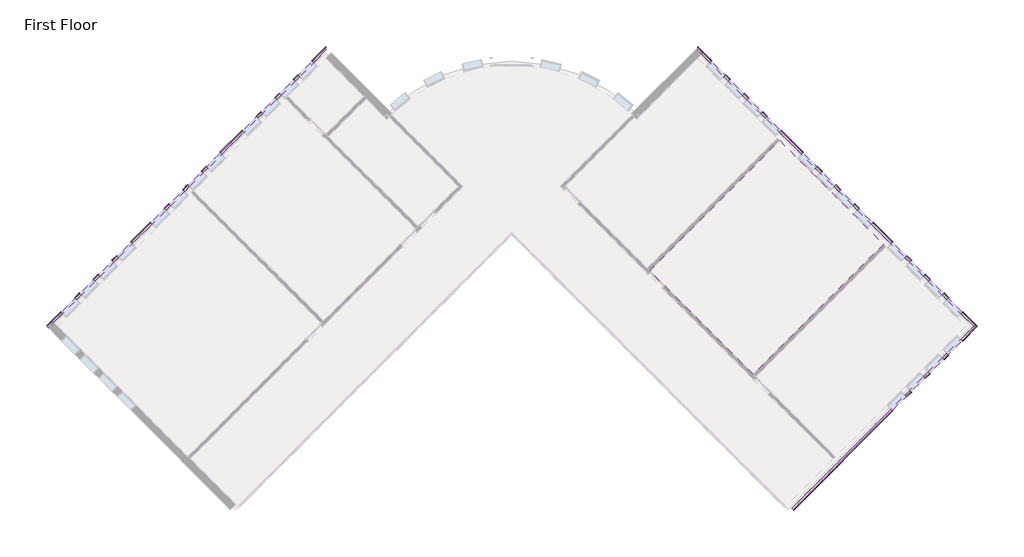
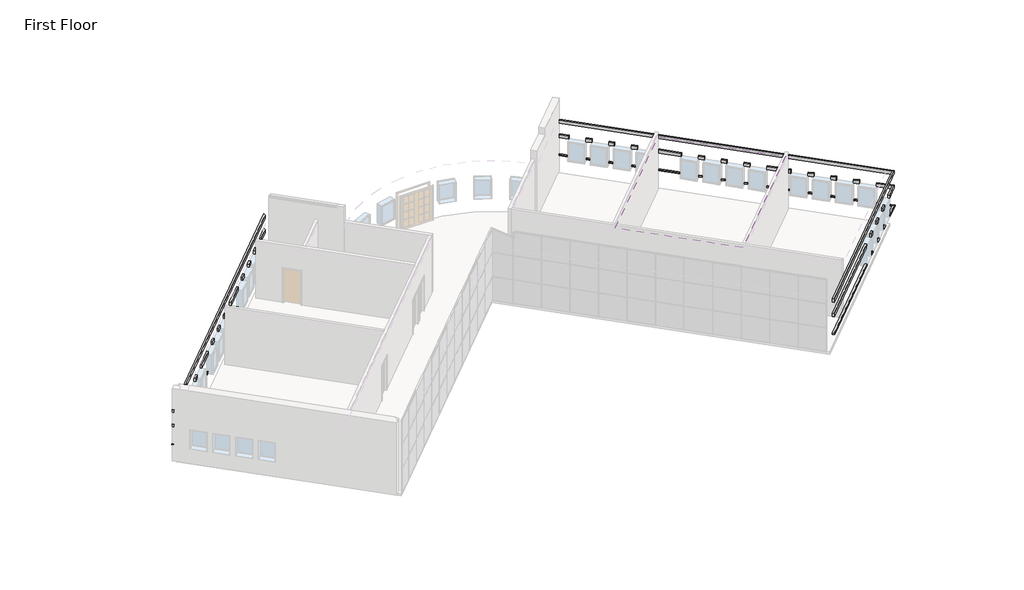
# One storey, part 5 of 5: 9 proxies, 1 covering.
"""IFC4 building model written with IfcOpenShell, lengths in millimetres."""

from ifc_helpers import new_model, si_unit, frame, origin, place, context, project, spatial, polyline, outline, extrude, faceted_brep, element, save

model = new_model("IFC4")

# Units and contexts
model_context = context("Model", 3, world=origin())
ifc_project = project(units=[si_unit("LENGTHUNIT", "METRE", prefix="MILLI")], contexts=[model_context])

# Site, building, storey
site = spatial("IfcSite", under=ifc_project)
building = spatial("IfcBuilding", under=site)
storey = spatial("IfcBuildingStorey", under=building, Name="First Floor", Elevation=0.0)

# Proxies
placement = place(None, origin())
element("IfcBuildingElementProxy", 1, Name="Wall Sweeps", at=placement, inside=storey, context=model_context, shape_type="Brep", body=[
    faceted_brep([(5753.0175119, 11443.3655905, 1085.85), (5753.0175119, 11573.5793042, 1085.85), (5753.0175119, 11622.9707129, 1041.4), (5753.0175119, 11622.9707129, 1016.0), (5753.0175119, 11443.3655905, 1016.0), (6317.415551, 10878.9675514, 1085.85), (6317.415551, 10878.9675514, 1016.0), (6382.5224079, 10944.0744083, 1016.0), (6407.2181122, 10968.7701126, 1016.0), (6407.2181122, 10968.7701126, 1041.4), (6382.5224079, 10944.0744083, 1085.85), (5937.1127624, 11259.27034, 1085.85), (5937.1127624, 11259.27034, 1016.0)], [[[0, 1, 2, 3, 4]], [[5, 6, 7, 8, 9, 10]], [[1, 0, 11, 5, 10]], [[2, 1, 10, 9]], [[3, 2, 9, 8]], [[4, 3, 8, 7, 6, 12]], [[0, 4, 12, 6, 5, 11]]]),
    faceted_brep([(6963.9939917, 10232.3891107, 1085.85), (7029.1008486, 10297.4959676, 1085.85), (7053.7965529, 10322.1916719, 1041.4), (7053.7965529, 10322.1916719, 1016.0), (7029.1008486, 10297.4959676, 1016.0), (6963.9939917, 10232.3891107, 1016.0), (7179.5201386, 10016.8629638, 1085.85), (7179.5201386, 10016.8629638, 1016.0), (7244.6269955, 10081.9698207, 1016.0), (7269.3226998, 10106.665525, 1016.0), (7269.3226998, 10106.665525, 1041.4), (7244.6269955, 10081.9698207, 1085.85)], [[[0, 1, 2, 3, 4, 5]], [[6, 7, 8, 9, 10, 11]], [[1, 0, 6, 11]], [[2, 1, 11, 10]], [[3, 2, 10, 9]], [[5, 4, 3, 9, 8, 7]], [[0, 5, 7, 6]]]),
    faceted_brep([(7826.0985793, 9370.2845231, 1085.85), (7891.2054362, 9435.39138, 1085.85), (7915.9011405, 9460.0870843, 1041.4), (7915.9011405, 9460.0870843, 1016.0), (7891.2054362, 9435.39138, 1016.0), (7826.0985793, 9370.2845231, 1016.0), (8041.6247262, 9154.7583762, 1085.85), (8041.6247262, 9154.7583762, 1016.0), (8106.7315831, 9219.8652331, 1016.0), (8131.4272874, 9244.5609374, 1016.0), (8131.4272874, 9244.5609374, 1041.4), (8106.7315831, 9219.8652331, 1085.85)], [[[0, 1, 2, 3, 4, 5]], [[6, 7, 8, 9, 10, 11]], [[1, 0, 6, 11]], [[2, 1, 11, 10]], [[3, 2, 10, 9]], [[5, 4, 3, 9, 8, 7]], [[0, 5, 7, 6]]]),
    faceted_brep([(8688.2031669, 8508.1799355, 1085.85), (8753.3100238, 8573.2867923, 1085.85), (8778.0057282, 8597.9824967, 1041.4), (8778.0057282, 8597.9824967, 1016.0), (8753.3100238, 8573.2867923, 1016.0), (8688.2031669, 8508.1799355, 1016.0), (8903.7293139, 8292.6537886, 1085.85), (8903.7293139, 8292.6537886, 1016.0), (8968.8361707, 8357.7606454, 1016.0), (8993.5318751, 8382.4563498, 1016.0), (8993.5318751, 8382.4563498, 1041.4), (8968.8361707, 8357.7606454, 1085.85)], [[[0, 1, 2, 3, 4, 5]], [[6, 7, 8, 9, 10, 11]], [[1, 0, 6, 11]], [[2, 1, 11, 10]], [[3, 2, 10, 9]], [[5, 4, 3, 9, 8, 7]], [[0, 5, 7, 6]]]),
    faceted_brep([(9550.3077546, 7646.0753478, 1085.85), (9615.4146114, 7711.1822047, 1085.85), (9640.1103158, 7735.877909, 1041.4), (9640.1103158, 7735.877909, 1016.0), (9615.4146114, 7711.1822047, 1016.0), (9550.3077546, 7646.0753478, 1016.0), (10574.7639411, 6621.6191613, 1085.85), (10574.7639411, 6621.6191613, 1016.0), (10639.870798, 6686.7260182, 1016.0), (10664.5665023, 6711.4217225, 1016.0), (10664.5665023, 6711.4217225, 1041.4), (10639.870798, 6686.7260182, 1085.85)], [[[0, 1, 2, 3, 4, 5]], [[6, 7, 8, 9, 10, 11]], [[1, 0, 6, 11]], [[2, 1, 11, 10]], [[3, 2, 10, 9]], [[5, 4, 3, 9, 8, 7]], [[0, 5, 7, 6]]]),
    faceted_brep([(11221.3423818, 5975.0407206, 1085.85), (11286.4492387, 6040.1475775, 1085.85), (11311.144943, 6064.8432818, 1041.4), (11311.144943, 6064.8432818, 1016.0), (11286.4492387, 6040.1475775, 1016.0), (11221.3423818, 5975.0407206, 1016.0), (11436.8685287, 5759.5145737, 1085.85), (11436.8685287, 5759.5145737, 1016.0), (11501.9753856, 5824.6214306, 1016.0), (11526.6710899, 5849.3171349, 1016.0), (11526.6710899, 5849.3171349, 1041.4), (11501.9753856, 5824.6214306, 1085.85)], [[[0, 1, 2, 3, 4, 5]], [[6, 7, 8, 9, 10, 11]], [[1, 0, 6, 11]], [[2, 1, 11, 10]], [[3, 2, 10, 9]], [[5, 4, 3, 9, 8, 7]], [[0, 5, 7, 6]]]),
    faceted_brep([(12083.4469694, 5112.936133, 1085.85), (12148.5538263, 5178.0429899, 1085.85), (12173.2495306, 5202.7386942, 1041.4), (12173.2495306, 5202.7386942, 1016.0), (12148.5538263, 5178.0429899, 1016.0), (12083.4469694, 5112.936133, 1016.0), (12298.9731163, 4897.4099861, 1085.85), (12298.9731163, 4897.4099861, 1016.0), (12364.0799732, 4962.516843, 1016.0), (12388.7756775, 4987.2125473, 1016.0), (12388.7756775, 4987.2125473, 1041.4), (12364.0799732, 4962.516843, 1085.85)], [[[0, 1, 2, 3, 4, 5]], [[6, 7, 8, 9, 10, 11]], [[1, 0, 6, 11]], [[2, 1, 11, 10]], [[3, 2, 10, 9]], [[5, 4, 3, 9, 8, 7]], [[0, 5, 7, 6]]]),
    faceted_brep([(12945.551557, 4250.8315454, 1085.85), (13010.6584139, 4315.9384023, 1085.85), (13035.3541182, 4340.6341066, 1041.4), (13035.3541182, 4340.6341066, 1016.0), (13010.6584139, 4315.9384023, 1016.0), (12945.551557, 4250.8315454, 1016.0), (13161.0777039, 4035.3053985, 1085.85), (13161.0777039, 4035.3053985, 1016.0), (13226.1845608, 4100.4122553, 1016.0), (13250.8802652, 4125.1079597, 1016.0), (13250.8802652, 4125.1079597, 1041.4), (13226.1845608, 4100.4122553, 1085.85)], [[[0, 1, 2, 3, 4, 5]], [[6, 7, 8, 9, 10, 11]], [[1, 0, 6, 11]], [[2, 1, 11, 10]], [[3, 2, 10, 9]], [[5, 4, 3, 9, 8, 7]], [[0, 5, 7, 6]]]),
    faceted_brep([(13807.6561447, 3388.7269578, 1085.85), (13872.7630015, 3453.8338146, 1085.85), (13897.4587059, 3478.529519, 1041.4), (13897.4587059, 3478.529519, 1016.0), (13872.7630015, 3453.8338146, 1016.0), (13807.6561447, 3388.7269578, 1016.0), (14723.1708449, 2473.2122576, 1085.85), (14723.1708449, 2473.2122576, 1016.0), (14788.2777017, 2538.3191144, 1016.0), (14812.9734061, 2563.0148188, 1016.0), (14812.9734061, 2563.0148188, 1041.4), (14788.2777017, 2538.3191144, 1085.85)], [[[0, 1, 2, 3, 4, 5]], [[6, 7, 8, 9, 10, 11]], [[1, 0, 6, 11]], [[2, 1, 11, 10]], [[3, 2, 10, 9]], [[5, 4, 3, 9, 8, 7]], [[0, 5, 7, 6]]]),
    faceted_brep([(15369.7492856, 1826.6338168, 1085.85), (15434.8561424, 1891.7406737, 1085.85), (15459.5518468, 1916.4363781, 1041.4), (15459.5518468, 1916.4363781, 1016.0), (15434.8561424, 1891.7406737, 1016.0), (15369.7492856, 1826.6338168, 1016.0), (15585.2754325, 1611.1076699, 1085.85), (15585.2754325, 1611.1076699, 1016.0), (15650.3822894, 1676.2145268, 1016.0), (15675.0779937, 1700.9102311, 1016.0), (15675.0779937, 1700.9102311, 1041.4), (15650.3822894, 1676.2145268, 1085.85)], [[[0, 1, 2, 3, 4, 5]], [[6, 7, 8, 9, 10, 11]], [[1, 0, 6, 11]], [[2, 1, 11, 10]], [[3, 2, 10, 9]], [[5, 4, 3, 9, 8, 7]], [[0, 5, 7, 6]]]),
    faceted_brep([(16231.8538732, 964.5292292, 1085.85), (16296.9607301, 1029.6360861, 1085.85), (16321.6564344, 1054.3317904, 1041.4), (16321.6564344, 1054.3317904, 1016.0), (16296.9607301, 1029.6360861, 1016.0), (16231.8538732, 964.5292292, 1016.0), (16447.3800201, 749.0030823, 1085.85), (16447.3800201, 749.0030823, 1016.0), (16512.486877, 814.1099392, 1016.0), (16537.1825813, 838.8056435, 1016.0), (16537.1825813, 838.8056435, 1041.4), (16512.486877, 814.1099392, 1085.85)], [[[0, 1, 2, 3, 4, 5]], [[6, 7, 8, 9, 10, 11]], [[1, 0, 6, 11]], [[2, 1, 11, 10]], [[3, 2, 10, 9]], [[5, 4, 3, 9, 8, 7]], [[0, 5, 7, 6]]]),
    faceted_brep([(17093.9584608, 102.4246416, 1085.85), (17159.0653177, 167.5314985, 1085.85), (17183.761022, 192.2272028, 1041.4), (17183.761022, 192.2272028, 1016.0), (17159.0653177, 167.5314985, 1016.0), (17093.9584608, 102.4246416, 1016.0), (17309.4846077, -113.1015053, 1085.85), (17309.4846077, -113.1015053, 1016.0), (17374.5914646, -47.9946484, 1016.0), (17399.2871689, -23.2989441, 1016.0), (17399.2871689, -23.2989441, 1041.4), (17374.5914646, -47.9946484, 1085.85)], [[[0, 1, 2, 3, 4, 5]], [[6, 7, 8, 9, 10, 11]], [[1, 0, 6, 11]], [[2, 1, 11, 10]], [[3, 2, 10, 9]], [[5, 4, 3, 9, 8, 7]], [[0, 5, 7, 6]]]),
    faceted_brep([(17956.0630484, -759.679946, 1085.85), (18021.1699053, -694.5730891, 1085.85), (18045.8656096, -669.8773848, 1041.4), (18045.8656096, -669.8773848, 1016.0), (18021.1699053, -694.5730891, 1016.0), (17956.0630484, -759.679946, 1016.0), (18554.3726125, -1357.9895101, 1085.85), (18554.3726125, -1357.9895101, 1016.0), (18733.9777349, -1357.9895101, 1016.0), (18733.9777349, -1357.9895101, 1041.4), (18684.5863263, -1357.9895101, 1085.85)], [[[0, 1, 2, 3, 4, 5]], [[6, 7, 8, 9, 10]], [[1, 0, 6, 10]], [[2, 1, 10, 9]], [[3, 2, 9, 8]], [[5, 4, 3, 8, 7]], [[0, 5, 7, 6]]]),
])
element("IfcBuildingElementProxy", 2, Name="Wall Sweeps", at=placement, inside=storey, context=model_context, shape_type="Brep", body=[
    faceted_brep([(5753.0175119, 11573.5793042, 2336.8), (5753.0175119, 11573.5793042, 2133.6), (5753.0175119, 11443.3655905, 2133.6), (5753.0175119, 11443.3655905, 2336.8), (6382.5224079, 10944.0744083, 2336.8), (6317.415551, 10878.9675514, 2336.8), (6317.415551, 10878.9675514, 2133.6), (6382.5224079, 10944.0744083, 2133.6), (6002.2196193, 11324.3771969, 2336.8), (6002.2196193, 11324.3771969, 2133.6), (5937.1127624, 11259.27034, 2133.6), (5937.1127624, 11259.27034, 2336.8)], [[[0, 1, 2, 3]], [[4, 5, 6, 7]], [[1, 0, 8, 4, 7, 9]], [[2, 1, 9, 7, 6, 10]], [[3, 2, 10, 6, 5, 11]], [[0, 3, 11, 5, 4, 8]]]),
    faceted_brep([(7029.1008486, 10297.4959676, 2336.8), (7029.1008486, 10297.4959676, 2133.6), (6963.9939917, 10232.3891107, 2133.6), (6963.9939917, 10232.3891107, 2336.8), (7244.6269955, 10081.9698207, 2336.8), (7179.5201386, 10016.8629638, 2336.8), (7179.5201386, 10016.8629638, 2133.6), (7244.6269955, 10081.9698207, 2133.6)], [[[0, 1, 2, 3]], [[4, 5, 6, 7]], [[1, 0, 4, 7]], [[2, 1, 7, 6]], [[3, 2, 6, 5]], [[0, 3, 5, 4]]]),
    faceted_brep([(7891.2054362, 9435.39138, 2336.8), (7891.2054362, 9435.39138, 2133.6), (7826.0985793, 9370.2845231, 2133.6), (7826.0985793, 9370.2845231, 2336.8), (8106.7315831, 9219.8652331, 2336.8), (8041.6247262, 9154.7583762, 2336.8), (8041.6247262, 9154.7583762, 2133.6), (8106.7315831, 9219.8652331, 2133.6)], [[[0, 1, 2, 3]], [[4, 5, 6, 7]], [[1, 0, 4, 7]], [[2, 1, 7, 6]], [[3, 2, 6, 5]], [[0, 3, 5, 4]]]),
    faceted_brep([(8753.3100238, 8573.2867923, 2336.8), (8753.3100238, 8573.2867923, 2133.6), (8688.2031669, 8508.1799355, 2133.6), (8688.2031669, 8508.1799355, 2336.8), (8968.8361707, 8357.7606454, 2336.8), (8903.7293139, 8292.6537886, 2336.8), (8903.7293139, 8292.6537886, 2133.6), (8968.8361707, 8357.7606454, 2133.6)], [[[0, 1, 2, 3]], [[4, 5, 6, 7]], [[1, 0, 4, 7]], [[2, 1, 7, 6]], [[3, 2, 6, 5]], [[0, 3, 5, 4]]]),
    faceted_brep([(9615.4146114, 7711.1822047, 2336.8), (9615.4146114, 7711.1822047, 2133.6), (9550.3077546, 7646.0753478, 2133.6), (9550.3077546, 7646.0753478, 2336.8), (10639.870798, 6686.7260182, 2336.8), (10574.7639411, 6621.6191613, 2336.8), (10574.7639411, 6621.6191613, 2133.6), (10639.870798, 6686.7260182, 2133.6)], [[[0, 1, 2, 3]], [[4, 5, 6, 7]], [[1, 0, 4, 7]], [[2, 1, 7, 6]], [[3, 2, 6, 5]], [[0, 3, 5, 4]]]),
    faceted_brep([(11286.4492387, 6040.1475775, 2336.8), (11286.4492387, 6040.1475775, 2133.6), (11221.3423818, 5975.0407206, 2133.6), (11221.3423818, 5975.0407206, 2336.8), (11501.9753856, 5824.6214306, 2336.8), (11436.8685287, 5759.5145737, 2336.8), (11436.8685287, 5759.5145737, 2133.6), (11501.9753856, 5824.6214306, 2133.6)], [[[0, 1, 2, 3]], [[4, 5, 6, 7]], [[1, 0, 4, 7]], [[2, 1, 7, 6]], [[3, 2, 6, 5]], [[0, 3, 5, 4]]]),
    faceted_brep([(12148.5538263, 5178.0429899, 2336.8), (12148.5538263, 5178.0429899, 2133.6), (12083.4469694, 5112.936133, 2133.6), (12083.4469694, 5112.936133, 2336.8), (12364.0799732, 4962.516843, 2336.8), (12298.9731163, 4897.4099861, 2336.8), (12298.9731163, 4897.4099861, 2133.6), (12364.0799732, 4962.516843, 2133.6)], [[[0, 1, 2, 3]], [[4, 5, 6, 7]], [[1, 0, 4, 7]], [[2, 1, 7, 6]], [[3, 2, 6, 5]], [[0, 3, 5, 4]]]),
    faceted_brep([(13010.6584139, 4315.9384023, 2336.8), (13010.6584139, 4315.9384023, 2133.6), (12945.551557, 4250.8315454, 2133.6), (12945.551557, 4250.8315454, 2336.8), (13226.1845608, 4100.4122553, 2336.8), (13161.0777039, 4035.3053985, 2336.8), (13161.0777039, 4035.3053985, 2133.6), (13226.1845608, 4100.4122553, 2133.6)], [[[0, 1, 2, 3]], [[4, 5, 6, 7]], [[1, 0, 4, 7]], [[2, 1, 7, 6]], [[3, 2, 6, 5]], [[0, 3, 5, 4]]]),
    faceted_brep([(13872.7630015, 3453.8338146, 2336.8), (13872.7630015, 3453.8338146, 2133.6), (13807.6561447, 3388.7269578, 2133.6), (13807.6561447, 3388.7269578, 2336.8), (14788.2777017, 2538.3191144, 2336.8), (14723.1708449, 2473.2122576, 2336.8), (14723.1708449, 2473.2122576, 2133.6), (14788.2777017, 2538.3191144, 2133.6)], [[[0, 1, 2, 3]], [[4, 5, 6, 7]], [[1, 0, 4, 7]], [[2, 1, 7, 6]], [[3, 2, 6, 5]], [[0, 3, 5, 4]]]),
    faceted_brep([(15434.8561424, 1891.7406737, 2336.8), (15434.8561424, 1891.7406737, 2133.6), (15369.7492856, 1826.6338168, 2133.6), (15369.7492856, 1826.6338168, 2336.8), (15650.3822894, 1676.2145268, 2336.8), (15585.2754325, 1611.1076699, 2336.8), (15585.2754325, 1611.1076699, 2133.6), (15650.3822894, 1676.2145268, 2133.6)], [[[0, 1, 2, 3]], [[4, 5, 6, 7]], [[1, 0, 4, 7]], [[2, 1, 7, 6]], [[3, 2, 6, 5]], [[0, 3, 5, 4]]]),
    faceted_brep([(16296.9607301, 1029.6360861, 2336.8), (16296.9607301, 1029.6360861, 2133.6), (16231.8538732, 964.5292292, 2133.6), (16231.8538732, 964.5292292, 2336.8), (16512.486877, 814.1099392, 2336.8), (16447.3800201, 749.0030823, 2336.8), (16447.3800201, 749.0030823, 2133.6), (16512.486877, 814.1099392, 2133.6)], [[[0, 1, 2, 3]], [[4, 5, 6, 7]], [[1, 0, 4, 7]], [[2, 1, 7, 6]], [[3, 2, 6, 5]], [[0, 3, 5, 4]]]),
    faceted_brep([(17159.0653177, 167.5314985, 2336.8), (17159.0653177, 167.5314985, 2133.6), (17093.9584608, 102.4246416, 2133.6), (17093.9584608, 102.4246416, 2336.8), (17374.5914646, -47.9946484, 2336.8), (17309.4846077, -113.1015053, 2336.8), (17309.4846077, -113.1015053, 2133.6), (17374.5914646, -47.9946484, 2133.6)], [[[0, 1, 2, 3]], [[4, 5, 6, 7]], [[1, 0, 4, 7]], [[2, 1, 7, 6]], [[3, 2, 6, 5]], [[0, 3, 5, 4]]]),
    faceted_brep([(18021.1699053, -694.5730891, 2336.8), (18021.1699053, -694.5730891, 2133.6), (17956.0630484, -759.679946, 2133.6), (17956.0630484, -759.679946, 2336.8), (18684.5863263, -1357.9895101, 2336.8), (18554.3726125, -1357.9895101, 2336.8), (18554.3726125, -1357.9895101, 2133.6), (18684.5863263, -1357.9895101, 2133.6)], [[[0, 1, 2, 3]], [[4, 5, 6, 7]], [[1, 0, 4, 7]], [[2, 1, 7, 6]], [[3, 2, 6, 5]], [[0, 3, 5, 4]]]),
])
element("IfcBuildingElementProxy", 3, Name="Wall Sweeps", at=placement, inside=storey, context=model_context, shape_type="Brep", body=[
    faceted_brep([(5753.0175119, 11573.5793042, 3251.2), (5753.0175119, 11573.5793042, 3048.0), (5753.0175119, 11443.3655905, 3048.0), (5753.0175119, 11443.3655905, 3251.2), (18684.5863263, -1357.9895101, 3251.2), (18554.3726125, -1357.9895101, 3251.2), (18554.3726125, -1357.9895101, 3048.0), (18684.5863263, -1357.9895101, 3048.0), (6002.2196193, 11324.3771969, 3251.2), (6002.2196193, 11324.3771969, 3048.0), (5937.1127624, 11259.27034, 3048.0), (5937.1127624, 11259.27034, 3251.2)], [[[0, 1, 2, 3]], [[4, 5, 6, 7]], [[1, 0, 8, 4, 7, 9]], [[2, 1, 9, 7, 6, 10]], [[3, 2, 10, 6, 5, 11]], [[0, 3, 11, 5, 4, 8]]]),
])
element("IfcBuildingElementProxy", 4, Name="Wall Sweeps", at=placement, inside=storey, context=model_context, shape_type="Brep", body=[
    faceted_brep([(18554.3726125, -1357.9895101, 1085.85), (18684.5863263, -1357.9895101, 1085.85), (18733.9777349, -1357.9895101, 1041.4), (18733.9777349, -1357.9895101, 1016.0), (18554.3726125, -1357.9895101, 1016.0), (17956.0630484, -1956.2990742, 1085.85), (17956.0630484, -1956.2990742, 1016.0), (18021.1699053, -2021.405931, 1016.0), (18045.8656096, -2046.1016354, 1016.0), (18045.8656096, -2046.1016354, 1041.4), (18021.1699053, -2021.405931, 1085.85), (18370.277362, -1542.0847606, 1085.85), (18370.277362, -1542.0847606, 1016.0)], [[[0, 1, 2, 3, 4]], [[5, 6, 7, 8, 9, 10]], [[1, 0, 11, 5, 10]], [[2, 1, 10, 9]], [[3, 2, 9, 8]], [[4, 3, 8, 7, 6, 12]], [[0, 4, 12, 6, 5, 11]]]),
    faceted_brep([(17309.4846077, -2602.8775149, 1085.85), (17374.5914646, -2667.9843718, 1085.85), (17399.2871689, -2692.6800761, 1041.4), (17399.2871689, -2692.6800761, 1016.0), (17374.5914646, -2667.9843718, 1016.0), (17309.4846077, -2602.8775149, 1016.0), (17093.9584608, -2818.4036618, 1085.85), (17093.9584608, -2818.4036618, 1016.0), (17159.0653177, -2883.5105187, 1016.0), (17183.761022, -2908.206223, 1016.0), (17183.761022, -2908.206223, 1041.4), (17159.0653177, -2883.5105187, 1085.85)], [[[0, 1, 2, 3, 4, 5]], [[6, 7, 8, 9, 10, 11]], [[1, 0, 6, 11]], [[2, 1, 11, 10]], [[3, 2, 10, 9]], [[5, 4, 3, 9, 8, 7]], [[0, 5, 7, 6]]]),
    faceted_brep([(16447.3800201, -3464.9821025, 1085.85), (16512.486877, -3530.0889594, 1085.85), (16537.1825813, -3554.7846637, 1041.4), (16537.1825813, -3554.7846637, 1016.0), (16512.486877, -3530.0889594, 1016.0), (16447.3800201, -3464.9821025, 1016.0), (16231.8538732, -3680.5082494, 1085.85), (16231.8538732, -3680.5082494, 1016.0), (16296.9607301, -3745.6151063, 1016.0), (16321.6564344, -3770.3108106, 1016.0), (16321.6564344, -3770.3108106, 1041.4), (16296.9607301, -3745.6151063, 1085.85)], [[[0, 1, 2, 3, 4, 5]], [[6, 7, 8, 9, 10, 11]], [[1, 0, 6, 11]], [[2, 1, 11, 10]], [[3, 2, 10, 9]], [[5, 4, 3, 9, 8, 7]], [[0, 5, 7, 6]]]),
    faceted_brep([(15585.2754325, -4327.0866901, 1085.85), (15650.3822894, -4392.193547, 1085.85), (15675.0779937, -4416.8892513, 1041.4), (15675.0779937, -4416.8892513, 1016.0), (15650.3822894, -4392.193547, 1016.0), (15585.2754325, -4327.0866901, 1016.0), (15369.7492856, -4542.612837, 1085.85), (15369.7492856, -4542.612837, 1016.0), (15434.8561424, -4607.7196939, 1016.0), (15459.5518468, -4632.4153982, 1016.0), (15459.5518468, -4632.4153982, 1041.4), (15434.8561424, -4607.7196939, 1085.85)], [[[0, 1, 2, 3, 4, 5]], [[6, 7, 8, 9, 10, 11]], [[1, 0, 6, 11]], [[2, 1, 11, 10]], [[3, 2, 10, 9]], [[5, 4, 3, 9, 8, 7]], [[0, 5, 7, 6]]]),
    faceted_brep([(14723.1708449, -5189.1912777, 1085.85), (14788.2777017, -5254.2981346, 1085.85), (14812.9734061, -5278.993839, 1041.4), (14812.9734061, -5278.993839, 1016.0), (14788.2777017, -5254.2981346, 1016.0), (14723.1708449, -5189.1912777, 1016.0), (10123.0346468, -9789.3274758, 1085.85), (10123.0346468, -9789.3274758, 1016.0), (10188.1415037, -9854.4343326, 1016.0), (10212.837208, -9879.130037, 1016.0), (10212.837208, -9879.130037, 1041.4), (10188.1415037, -9854.4343326, 1085.85)], [[[0, 1, 2, 3, 4, 5]], [[6, 7, 8, 9, 10, 11]], [[1, 0, 6, 11]], [[2, 1, 11, 10]], [[3, 2, 10, 9]], [[5, 4, 3, 9, 8, 7]], [[0, 5, 7, 6]]]),
])
element("IfcBuildingElementProxy", 5, Name="Wall Sweeps", at=placement, inside=storey, context=model_context, shape_type="Brep", body=[
    faceted_brep([(18684.5863263, -1357.9895101, 2336.8), (18684.5863263, -1357.9895101, 2133.6), (18554.3726125, -1357.9895101, 2133.6), (18554.3726125, -1357.9895101, 2336.8), (18021.1699053, -2021.405931, 2336.8), (17956.0630484, -1956.2990742, 2336.8), (17956.0630484, -1956.2990742, 2133.6), (18021.1699053, -2021.405931, 2133.6), (18435.3842189, -1607.1916175, 2336.8), (18435.3842189, -1607.1916175, 2133.6), (18370.277362, -1542.0847606, 2133.6), (18370.277362, -1542.0847606, 2336.8)], [[[0, 1, 2, 3]], [[4, 5, 6, 7]], [[1, 0, 8, 4, 7, 9]], [[2, 1, 9, 7, 6, 10]], [[3, 2, 10, 6, 5, 11]], [[0, 3, 11, 5, 4, 8]]]),
    faceted_brep([(17374.5914646, -2667.9843718, 2336.8), (17374.5914646, -2667.9843718, 2133.6), (17309.4846077, -2602.8775149, 2133.6), (17309.4846077, -2602.8775149, 2336.8), (17159.0653177, -2883.5105187, 2336.8), (17093.9584608, -2818.4036618, 2336.8), (17093.9584608, -2818.4036618, 2133.6), (17159.0653177, -2883.5105187, 2133.6)], [[[0, 1, 2, 3]], [[4, 5, 6, 7]], [[1, 0, 4, 7]], [[2, 1, 7, 6]], [[3, 2, 6, 5]], [[0, 3, 5, 4]]]),
    faceted_brep([(16512.486877, -3530.0889594, 2336.8), (16512.486877, -3530.0889594, 2133.6), (16447.3800201, -3464.9821025, 2133.6), (16447.3800201, -3464.9821025, 2336.8), (16296.9607301, -3745.6151063, 2336.8), (16231.8538732, -3680.5082494, 2336.8), (16231.8538732, -3680.5082494, 2133.6), (16296.9607301, -3745.6151063, 2133.6)], [[[0, 1, 2, 3]], [[4, 5, 6, 7]], [[1, 0, 4, 7]], [[2, 1, 7, 6]], [[3, 2, 6, 5]], [[0, 3, 5, 4]]]),
    faceted_brep([(15650.3822894, -4392.193547, 2336.8), (15650.3822894, -4392.193547, 2133.6), (15585.2754325, -4327.0866901, 2133.6), (15585.2754325, -4327.0866901, 2336.8), (15434.8561424, -4607.7196939, 2336.8), (15369.7492856, -4542.612837, 2336.8), (15369.7492856, -4542.612837, 2133.6), (15434.8561424, -4607.7196939, 2133.6)], [[[0, 1, 2, 3]], [[4, 5, 6, 7]], [[1, 0, 4, 7]], [[2, 1, 7, 6]], [[3, 2, 6, 5]], [[0, 3, 5, 4]]]),
    faceted_brep([(14788.2777017, -5254.2981346, 2336.8), (14788.2777017, -5254.2981346, 2133.6), (14723.1708449, -5189.1912777, 2133.6), (14723.1708449, -5189.1912777, 2336.8), (10188.1415037, -9854.4343326, 2336.8), (10123.0346468, -9789.3274758, 2336.8), (10123.0346468, -9789.3274758, 2133.6), (10188.1415037, -9854.4343326, 2133.6)], [[[0, 1, 2, 3]], [[4, 5, 6, 7]], [[1, 0, 4, 7]], [[2, 1, 7, 6]], [[3, 2, 6, 5]], [[0, 3, 5, 4]]]),
])
element("IfcBuildingElementProxy", 6, Name="Wall Sweeps", at=placement, inside=storey, context=model_context, shape_type="Brep", body=[
    faceted_brep([(18684.5863263, -1357.9895101, 3251.2), (18684.5863263, -1357.9895101, 3048.0), (18554.3726125, -1357.9895101, 3048.0), (18554.3726125, -1357.9895101, 3251.2), (10188.1415037, -9854.4343326, 3251.2), (10123.0346468, -9789.3274758, 3251.2), (10123.0346468, -9789.3274758, 3048.0), (10188.1415037, -9854.4343326, 3048.0), (18435.3842189, -1607.1916175, 3251.2), (18435.3842189, -1607.1916175, 3048.0), (18370.277362, -1542.0847606, 3048.0), (18370.277362, -1542.0847606, 3251.2)], [[[0, 1, 2, 3]], [[4, 5, 6, 7]], [[1, 0, 8, 4, 7, 9]], [[2, 1, 9, 7, 6, 10]], [[3, 2, 10, 6, 5, 11]], [[0, 3, 11, 5, 4, 8]]]),
])
element("IfcBuildingElementProxy", 7, Name="Wall Sweeps", at=placement, inside=storey, context=model_context, shape_type="Brep", body=[
    faceted_brep([(-24355.536198, -1423.096367, 1085.85), (-24420.6430549, -1357.9895101, 1085.85), (-24445.3387592, -1333.2938058, 1041.4), (-24445.3387592, -1333.2938058, 1016.0), (-24355.536198, -1423.096367, 1016.0), (-23692.119777, -759.679946, 1085.85), (-23692.119777, -759.679946, 1016.0), (-23757.2266339, -694.5730891, 1016.0), (-23781.9223383, -669.8773848, 1016.0), (-23781.9223383, -669.8773848, 1041.4), (-23757.2266339, -694.5730891, 1085.85), (-24106.3340906, -1173.8942596, 1085.85), (-24106.3340906, -1173.8942596, 1016.0)], [[[0, 1, 2, 3, 4]], [[5, 6, 7, 8, 9, 10]], [[1, 0, 11, 5, 10]], [[2, 1, 10, 9]], [[3, 2, 9, 8]], [[4, 3, 8, 7, 6, 12]], [[0, 4, 12, 6, 5, 11]]]),
    faceted_brep([(-23045.5413363, -113.1015053, 1085.85), (-23110.6481932, -47.9946484, 1085.85), (-23135.3438975, -23.2989441, 1041.4), (-23135.3438975, -23.2989441, 1016.0), (-23110.6481932, -47.9946484, 1016.0), (-23045.5413363, -113.1015053, 1016.0), (-22830.0151894, 102.4246416, 1085.85), (-22830.0151894, 102.4246416, 1016.0), (-22895.1220463, 167.5314985, 1016.0), (-22919.8177506, 192.2272028, 1016.0), (-22919.8177506, 192.2272028, 1041.4), (-22895.1220463, 167.5314985, 1085.85)], [[[0, 1, 2, 3, 4, 5]], [[6, 7, 8, 9, 10, 11]], [[1, 0, 6, 11]], [[2, 1, 11, 10]], [[3, 2, 10, 9]], [[5, 4, 3, 9, 8, 7]], [[0, 5, 7, 6]]]),
    faceted_brep([(-22183.4367487, 749.0030823, 1085.85), (-22248.5436056, 814.1099392, 1085.85), (-22273.2393099, 838.8056435, 1041.4), (-22273.2393099, 838.8056435, 1016.0), (-22248.5436056, 814.1099392, 1016.0), (-22183.4367487, 749.0030823, 1016.0), (-21967.9106018, 964.5292292, 1085.85), (-21967.9106018, 964.5292292, 1016.0), (-22033.0174587, 1029.6360861, 1016.0), (-22057.713163, 1054.3317904, 1016.0), (-22057.713163, 1054.3317904, 1041.4), (-22033.0174587, 1029.6360861, 1085.85)], [[[0, 1, 2, 3, 4, 5]], [[6, 7, 8, 9, 10, 11]], [[1, 0, 6, 11]], [[2, 1, 11, 10]], [[3, 2, 10, 9]], [[5, 4, 3, 9, 8, 7]], [[0, 5, 7, 6]]]),
    faceted_brep([(-21321.3321611, 1611.1076699, 1085.85), (-21386.439018, 1676.2145268, 1085.85), (-21411.1347223, 1700.9102311, 1041.4), (-21411.1347223, 1700.9102311, 1016.0), (-21386.439018, 1676.2145268, 1016.0), (-21321.3321611, 1611.1076699, 1016.0), (-21105.8060142, 1826.6338168, 1085.85), (-21105.8060142, 1826.6338168, 1016.0), (-21170.9128711, 1891.7406737, 1016.0), (-21195.6085754, 1916.4363781, 1016.0), (-21195.6085754, 1916.4363781, 1041.4), (-21170.9128711, 1891.7406737, 1085.85)], [[[0, 1, 2, 3, 4, 5]], [[6, 7, 8, 9, 10, 11]], [[1, 0, 6, 11]], [[2, 1, 11, 10]], [[3, 2, 10, 9]], [[5, 4, 3, 9, 8, 7]], [[0, 5, 7, 6]]]),
    faceted_brep([(-20459.2275735, 2473.2122576, 1085.85), (-20524.3344303, 2538.3191144, 1085.85), (-20549.0301347, 2563.0148188, 1041.4), (-20549.0301347, 2563.0148188, 1016.0), (-20524.3344303, 2538.3191144, 1016.0), (-20459.2275735, 2473.2122576, 1016.0), (-19543.7128733, 3388.7269578, 1085.85), (-19543.7128733, 3388.7269578, 1016.0), (-19608.8197301, 3453.8338146, 1016.0), (-19633.5154345, 3478.529519, 1016.0), (-19633.5154345, 3478.529519, 1041.4), (-19608.8197301, 3453.8338146, 1085.85)], [[[0, 1, 2, 3, 4, 5]], [[6, 7, 8, 9, 10, 11]], [[1, 0, 6, 11]], [[2, 1, 11, 10]], [[3, 2, 10, 9]], [[5, 4, 3, 9, 8, 7]], [[0, 5, 7, 6]]]),
    faceted_brep([(-18897.1344326, 4035.3053985, 1085.85), (-18962.2412894, 4100.4122553, 1085.85), (-18986.9369938, 4125.1079597, 1041.4), (-18986.9369938, 4125.1079597, 1016.0), (-18962.2412894, 4100.4122553, 1016.0), (-18897.1344326, 4035.3053985, 1016.0), (-18681.6082856, 4250.8315454, 1085.85), (-18681.6082856, 4250.8315454, 1016.0), (-18746.7151425, 4315.9384023, 1016.0), (-18771.4108469, 4340.6341066, 1016.0), (-18771.4108469, 4340.6341066, 1041.4), (-18746.7151425, 4315.9384023, 1085.85)], [[[0, 1, 2, 3, 4, 5]], [[6, 7, 8, 9, 10, 11]], [[1, 0, 6, 11]], [[2, 1, 11, 10]], [[3, 2, 10, 9]], [[5, 4, 3, 9, 8, 7]], [[0, 5, 7, 6]]]),
    faceted_brep([(-18035.0298449, 4897.4099861, 1085.85), (-18100.1367018, 4962.516843, 1085.85), (-18124.8324061, 4987.2125473, 1041.4), (-18124.8324061, 4987.2125473, 1016.0), (-18100.1367018, 4962.516843, 1016.0), (-18035.0298449, 4897.4099861, 1016.0), (-17819.503698, 5112.936133, 1085.85), (-17819.503698, 5112.936133, 1016.0), (-17884.6105549, 5178.0429899, 1016.0), (-17909.3062592, 5202.7386942, 1016.0), (-17909.3062592, 5202.7386942, 1041.4), (-17884.6105549, 5178.0429899, 1085.85)], [[[0, 1, 2, 3, 4, 5]], [[6, 7, 8, 9, 10, 11]], [[1, 0, 6, 11]], [[2, 1, 11, 10]], [[3, 2, 10, 9]], [[5, 4, 3, 9, 8, 7]], [[0, 5, 7, 6]]]),
    faceted_brep([(-17172.9252573, 5759.5145737, 1085.85), (-17238.0321142, 5824.6214306, 1085.85), (-17262.7278185, 5849.3171349, 1041.4), (-17262.7278185, 5849.3171349, 1016.0), (-17238.0321142, 5824.6214306, 1016.0), (-17172.9252573, 5759.5145737, 1016.0), (-16957.3991104, 5975.0407206, 1085.85), (-16957.3991104, 5975.0407206, 1016.0), (-17022.5059673, 6040.1475775, 1016.0), (-17047.2016716, 6064.8432818, 1016.0), (-17047.2016716, 6064.8432818, 1041.4), (-17022.5059673, 6040.1475775, 1085.85)], [[[0, 1, 2, 3, 4, 5]], [[6, 7, 8, 9, 10, 11]], [[1, 0, 6, 11]], [[2, 1, 11, 10]], [[3, 2, 10, 9]], [[5, 4, 3, 9, 8, 7]], [[0, 5, 7, 6]]]),
    faceted_brep([(-16310.8206697, 6621.6191613, 1085.85), (-16375.9275266, 6686.7260182, 1085.85), (-16400.6232309, 6711.4217225, 1041.4), (-16400.6232309, 6711.4217225, 1016.0), (-16375.9275266, 6686.7260182, 1016.0), (-16310.8206697, 6621.6191613, 1016.0), (-15286.3644832, 7646.0753478, 1085.85), (-15286.3644832, 7646.0753478, 1016.0), (-15351.4713401, 7711.1822047, 1016.0), (-15376.1670444, 7735.877909, 1016.0), (-15376.1670444, 7735.877909, 1041.4), (-15351.4713401, 7711.1822047, 1085.85)], [[[0, 1, 2, 3, 4, 5]], [[6, 7, 8, 9, 10, 11]], [[1, 0, 6, 11]], [[2, 1, 11, 10]], [[3, 2, 10, 9]], [[5, 4, 3, 9, 8, 7]], [[0, 5, 7, 6]]]),
    faceted_brep([(-14639.7860425, 8292.6537886, 1085.85), (-14704.8928993, 8357.7606454, 1085.85), (-14729.5886037, 8382.4563498, 1041.4), (-14729.5886037, 8382.4563498, 1016.0), (-14704.8928993, 8357.7606454, 1016.0), (-14639.7860425, 8292.6537886, 1016.0), (-14424.2598956, 8508.1799355, 1085.85), (-14424.2598956, 8508.1799355, 1016.0), (-14489.3667524, 8573.2867923, 1016.0), (-14514.0624568, 8597.9824967, 1016.0), (-14514.0624568, 8597.9824967, 1041.4), (-14489.3667524, 8573.2867923, 1085.85)], [[[0, 1, 2, 3, 4, 5]], [[6, 7, 8, 9, 10, 11]], [[1, 0, 6, 11]], [[2, 1, 11, 10]], [[3, 2, 10, 9]], [[5, 4, 3, 9, 8, 7]], [[0, 5, 7, 6]]]),
    faceted_brep([(-13777.6814548, 9154.7583762, 1085.85), (-13842.7883117, 9219.8652331, 1085.85), (-13867.4840161, 9244.5609374, 1041.4), (-13867.4840161, 9244.5609374, 1016.0), (-13842.7883117, 9219.8652331, 1016.0), (-13777.6814548, 9154.7583762, 1016.0), (-13562.1553079, 9370.2845231, 1085.85), (-13562.1553079, 9370.2845231, 1016.0), (-13627.2621648, 9435.39138, 1016.0), (-13651.9578691, 9460.0870843, 1016.0), (-13651.9578691, 9460.0870843, 1041.4), (-13627.2621648, 9435.39138, 1085.85)], [[[0, 1, 2, 3, 4, 5]], [[6, 7, 8, 9, 10, 11]], [[1, 0, 6, 11]], [[2, 1, 11, 10]], [[3, 2, 10, 9]], [[5, 4, 3, 9, 8, 7]], [[0, 5, 7, 6]]]),
    faceted_brep([(-12915.5768672, 10016.8629638, 1085.85), (-12980.6837241, 10081.9698207, 1085.85), (-13005.3794284, 10106.665525, 1041.4), (-13005.3794284, 10106.665525, 1016.0), (-12980.6837241, 10081.9698207, 1016.0), (-12915.5768672, 10016.8629638, 1016.0), (-12700.0507203, 10232.3891107, 1085.85), (-12700.0507203, 10232.3891107, 1016.0), (-12765.1575772, 10297.4959676, 1016.0), (-12789.8532815, 10322.1916719, 1016.0), (-12789.8532815, 10322.1916719, 1041.4), (-12765.1575772, 10297.4959676, 1085.85)], [[[0, 1, 2, 3, 4, 5]], [[6, 7, 8, 9, 10, 11]], [[1, 0, 6, 11]], [[2, 1, 11, 10]], [[3, 2, 10, 9]], [[5, 4, 3, 9, 8, 7]], [[0, 5, 7, 6]]]),
    faceted_brep([(-12053.4722796, 10878.9675514, 1085.85), (-12118.5791365, 10944.0744083, 1085.85), (-12143.2748408, 10968.7701126, 1041.4), (-12143.2748408, 10968.7701126, 1016.0), (-12118.5791365, 10944.0744083, 1016.0), (-12053.4722796, 10878.9675514, 1016.0), (-11489.0742405, 11443.3655905, 1085.85), (-11489.0742405, 11443.3655905, 1016.0), (-11489.0742405, 11622.9707129, 1016.0), (-11489.0742405, 11622.9707129, 1041.4), (-11489.0742405, 11573.5793042, 1085.85)], [[[0, 1, 2, 3, 4, 5]], [[6, 7, 8, 9, 10]], [[1, 0, 6, 10]], [[2, 1, 10, 9]], [[3, 2, 9, 8]], [[5, 4, 3, 8, 7]], [[0, 5, 7, 6]]]),
])
element("IfcBuildingElementProxy", 8, Name="Wall Sweeps", at=placement, inside=storey, context=model_context, shape_type="Brep", body=[
    faceted_brep([(-24420.6430549, -1357.9895101, 2336.8), (-24420.6430549, -1357.9895101, 2133.6), (-24355.536198, -1423.096367, 2133.6), (-24355.536198, -1423.096367, 2336.8), (-23757.2266339, -694.5730891, 2336.8), (-23692.119777, -759.679946, 2336.8), (-23692.119777, -759.679946, 2133.6), (-23757.2266339, -694.5730891, 2133.6), (-24171.4409475, -1108.7874027, 2336.8), (-24171.4409475, -1108.7874027, 2133.6), (-24106.3340906, -1173.8942596, 2133.6), (-24106.3340906, -1173.8942596, 2336.8)], [[[0, 1, 2, 3]], [[4, 5, 6, 7]], [[1, 0, 8, 4, 7, 9]], [[2, 1, 9, 7, 6, 10]], [[3, 2, 10, 6, 5, 11]], [[0, 3, 11, 5, 4, 8]]]),
    faceted_brep([(-23110.6481932, -47.9946484, 2336.8), (-23110.6481932, -47.9946484, 2133.6), (-23045.5413363, -113.1015053, 2133.6), (-23045.5413363, -113.1015053, 2336.8), (-22895.1220463, 167.5314985, 2336.8), (-22830.0151894, 102.4246416, 2336.8), (-22830.0151894, 102.4246416, 2133.6), (-22895.1220463, 167.5314985, 2133.6)], [[[0, 1, 2, 3]], [[4, 5, 6, 7]], [[1, 0, 4, 7]], [[2, 1, 7, 6]], [[3, 2, 6, 5]], [[0, 3, 5, 4]]]),
    faceted_brep([(-22248.5436056, 814.1099392, 2336.8), (-22248.5436056, 814.1099392, 2133.6), (-22183.4367487, 749.0030823, 2133.6), (-22183.4367487, 749.0030823, 2336.8), (-22033.0174587, 1029.6360861, 2336.8), (-21967.9106018, 964.5292292, 2336.8), (-21967.9106018, 964.5292292, 2133.6), (-22033.0174587, 1029.6360861, 2133.6)], [[[0, 1, 2, 3]], [[4, 5, 6, 7]], [[1, 0, 4, 7]], [[2, 1, 7, 6]], [[3, 2, 6, 5]], [[0, 3, 5, 4]]]),
    faceted_brep([(-21386.439018, 1676.2145268, 2336.8), (-21386.439018, 1676.2145268, 2133.6), (-21321.3321611, 1611.1076699, 2133.6), (-21321.3321611, 1611.1076699, 2336.8), (-21170.9128711, 1891.7406737, 2336.8), (-21105.8060142, 1826.6338168, 2336.8), (-21105.8060142, 1826.6338168, 2133.6), (-21170.9128711, 1891.7406737, 2133.6)], [[[0, 1, 2, 3]], [[4, 5, 6, 7]], [[1, 0, 4, 7]], [[2, 1, 7, 6]], [[3, 2, 6, 5]], [[0, 3, 5, 4]]]),
    faceted_brep([(-20524.3344303, 2538.3191144, 2336.8), (-20524.3344303, 2538.3191144, 2133.6), (-20459.2275735, 2473.2122576, 2133.6), (-20459.2275735, 2473.2122576, 2336.8), (-19608.8197301, 3453.8338146, 2336.8), (-19543.7128733, 3388.7269578, 2336.8), (-19543.7128733, 3388.7269578, 2133.6), (-19608.8197301, 3453.8338146, 2133.6)], [[[0, 1, 2, 3]], [[4, 5, 6, 7]], [[1, 0, 4, 7]], [[2, 1, 7, 6]], [[3, 2, 6, 5]], [[0, 3, 5, 4]]]),
    faceted_brep([(-18962.2412894, 4100.4122553, 2336.8), (-18962.2412894, 4100.4122553, 2133.6), (-18897.1344326, 4035.3053985, 2133.6), (-18897.1344326, 4035.3053985, 2336.8), (-18746.7151425, 4315.9384023, 2336.8), (-18681.6082856, 4250.8315454, 2336.8), (-18681.6082856, 4250.8315454, 2133.6), (-18746.7151425, 4315.9384023, 2133.6)], [[[0, 1, 2, 3]], [[4, 5, 6, 7]], [[1, 0, 4, 7]], [[2, 1, 7, 6]], [[3, 2, 6, 5]], [[0, 3, 5, 4]]]),
    faceted_brep([(-18100.1367018, 4962.516843, 2336.8), (-18100.1367018, 4962.516843, 2133.6), (-18035.0298449, 4897.4099861, 2133.6), (-18035.0298449, 4897.4099861, 2336.8), (-17884.6105549, 5178.0429899, 2336.8), (-17819.503698, 5112.936133, 2336.8), (-17819.503698, 5112.936133, 2133.6), (-17884.6105549, 5178.0429899, 2133.6)], [[[0, 1, 2, 3]], [[4, 5, 6, 7]], [[1, 0, 4, 7]], [[2, 1, 7, 6]], [[3, 2, 6, 5]], [[0, 3, 5, 4]]]),
    faceted_brep([(-17238.0321142, 5824.6214306, 2336.8), (-17238.0321142, 5824.6214306, 2133.6), (-17172.9252573, 5759.5145737, 2133.6), (-17172.9252573, 5759.5145737, 2336.8), (-17022.5059673, 6040.1475775, 2336.8), (-16957.3991104, 5975.0407206, 2336.8), (-16957.3991104, 5975.0407206, 2133.6), (-17022.5059673, 6040.1475775, 2133.6)], [[[0, 1, 2, 3]], [[4, 5, 6, 7]], [[1, 0, 4, 7]], [[2, 1, 7, 6]], [[3, 2, 6, 5]], [[0, 3, 5, 4]]]),
    faceted_brep([(-16375.9275266, 6686.7260182, 2336.8), (-16375.9275266, 6686.7260182, 2133.6), (-16310.8206697, 6621.6191613, 2133.6), (-16310.8206697, 6621.6191613, 2336.8), (-15351.4713401, 7711.1822047, 2336.8), (-15286.3644832, 7646.0753478, 2336.8), (-15286.3644832, 7646.0753478, 2133.6), (-15351.4713401, 7711.1822047, 2133.6)], [[[0, 1, 2, 3]], [[4, 5, 6, 7]], [[1, 0, 4, 7]], [[2, 1, 7, 6]], [[3, 2, 6, 5]], [[0, 3, 5, 4]]]),
    faceted_brep([(-14704.8928993, 8357.7606454, 2336.8), (-14704.8928993, 8357.7606454, 2133.6), (-14639.7860425, 8292.6537886, 2133.6), (-14639.7860425, 8292.6537886, 2336.8), (-14489.3667524, 8573.2867923, 2336.8), (-14424.2598956, 8508.1799355, 2336.8), (-14424.2598956, 8508.1799355, 2133.6), (-14489.3667524, 8573.2867923, 2133.6)], [[[0, 1, 2, 3]], [[4, 5, 6, 7]], [[1, 0, 4, 7]], [[2, 1, 7, 6]], [[3, 2, 6, 5]], [[0, 3, 5, 4]]]),
    faceted_brep([(-13842.7883117, 9219.8652331, 2336.8), (-13842.7883117, 9219.8652331, 2133.6), (-13777.6814548, 9154.7583762, 2133.6), (-13777.6814548, 9154.7583762, 2336.8), (-13627.2621648, 9435.39138, 2336.8), (-13562.1553079, 9370.2845231, 2336.8), (-13562.1553079, 9370.2845231, 2133.6), (-13627.2621648, 9435.39138, 2133.6)], [[[0, 1, 2, 3]], [[4, 5, 6, 7]], [[1, 0, 4, 7]], [[2, 1, 7, 6]], [[3, 2, 6, 5]], [[0, 3, 5, 4]]]),
    faceted_brep([(-12980.6837241, 10081.9698207, 2336.8), (-12980.6837241, 10081.9698207, 2133.6), (-12915.5768672, 10016.8629638, 2133.6), (-12915.5768672, 10016.8629638, 2336.8), (-12765.1575772, 10297.4959676, 2336.8), (-12700.0507203, 10232.3891107, 2336.8), (-12700.0507203, 10232.3891107, 2133.6), (-12765.1575772, 10297.4959676, 2133.6)], [[[0, 1, 2, 3]], [[4, 5, 6, 7]], [[1, 0, 4, 7]], [[2, 1, 7, 6]], [[3, 2, 6, 5]], [[0, 3, 5, 4]]]),
    faceted_brep([(-12118.5791365, 10944.0744083, 2336.8), (-12118.5791365, 10944.0744083, 2133.6), (-12053.4722796, 10878.9675514, 2133.6), (-12053.4722796, 10878.9675514, 2336.8), (-11489.0742405, 11573.5793042, 2336.8), (-11489.0742405, 11443.3655905, 2336.8), (-11489.0742405, 11443.3655905, 2133.6), (-11489.0742405, 11573.5793042, 2133.6)], [[[0, 1, 2, 3]], [[4, 5, 6, 7]], [[1, 0, 4, 7]], [[2, 1, 7, 6]], [[3, 2, 6, 5]], [[0, 3, 5, 4]]]),
])
element("IfcBuildingElementProxy", 9, Name="Wall Sweeps", at=placement, inside=storey, context=model_context, shape_type="Brep", body=[
    faceted_brep([(-24420.6430549, -1357.9895101, 3251.2), (-24420.6430549, -1357.9895101, 3048.0), (-24355.536198, -1423.096367, 3048.0), (-24355.536198, -1423.096367, 3251.2), (-11489.0742405, 11573.5793042, 3251.2), (-11489.0742405, 11443.3655905, 3251.2), (-11489.0742405, 11443.3655905, 3048.0), (-11489.0742405, 11573.5793042, 3048.0), (-24171.4409475, -1108.7874027, 3251.2), (-24171.4409475, -1108.7874027, 3048.0), (-24106.3340906, -1173.8942596, 3048.0), (-24106.3340906, -1173.8942596, 3251.2)], [[[0, 1, 2, 3]], [[4, 5, 6, 7]], [[1, 0, 8, 4, 7, 9]], [[2, 1, 9, 7, 6, 10]], [[3, 2, 10, 6, 5, 11]], [[0, 3, 11, 5, 4, 8]]]),
])

# Covering
element("IfcCovering", 10, ObjectType="2' x 2' ACT System", at=placement, inside=storey, context=model_context, shape_type="SweptSolid", body=[
    extrude(outline(polyline([(3525.9139939, 1228.3242528), (9562.8911713, 7265.3014302), (14376.3084522, 2451.8841493), (8339.3312748, -3585.0930281), (3525.9139939, 1228.3242528)])), frame((0.0, 0.0, 3352.8), z_axis=(0.0, 0.0, 1.0), x_axis=(1.0, 0.0, 0.0)), (0.0, 0.0, 1.0), 57.15),
])

save(model, "model.ifc")
